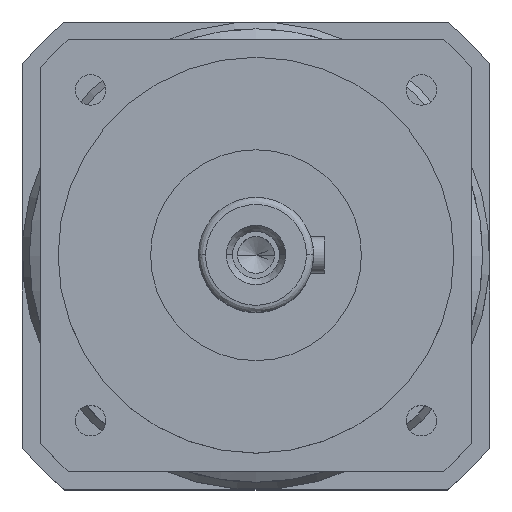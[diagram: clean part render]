
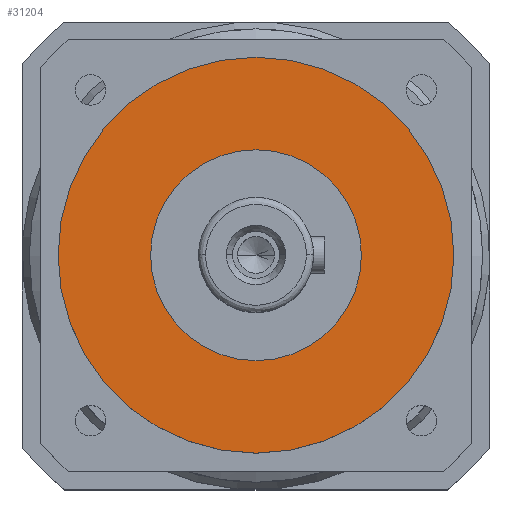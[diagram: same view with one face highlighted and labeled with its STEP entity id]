
A CAD part, top view. The second image highlights one B-rep face of the part: STEP entity #31204.
In plain terms, the highlighted planar face has unit normal (0, 0, 1).
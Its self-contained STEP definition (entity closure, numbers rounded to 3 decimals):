
#555 = EDGE_CURVE ( 'NONE', #27554, #13588, #12805, .T. ) ;
#1188 = DIRECTION ( 'NONE',  ( -1., 0., 0. ) ) ;
#3856 = CARTESIAN_POINT ( 'NONE',  ( -55., 0., 0. ) ) ;
#4158 = EDGE_LOOP ( 'NONE', ( #20468, #32859 ) ) ;
#4182 = CIRCLE ( 'NONE', #35358, 55. ) ;
#4303 = AXIS2_PLACEMENT_3D ( 'NONE', #38072, #18399, #41420 ) ;
#6310 = EDGE_CURVE ( 'NONE', #36546, #17198, #15286, .T. ) ;
#8863 = FACE_BOUND ( 'NONE', #30505, .T. ) ;
#9305 = EDGE_CURVE ( 'NONE', #13588, #27554, #4182, .T. ) ;
#11523 = AXIS2_PLACEMENT_3D ( 'NONE', #40679, #20998, #1188 ) ;
#12805 = CIRCLE ( 'NONE', #28833, 55. ) ;
#12848 = AXIS2_PLACEMENT_3D ( 'NONE', #39233, #13071, #36091 ) ;
#13071 = DIRECTION ( 'NONE',  ( 0., 0., -1. ) ) ;
#13588 = VERTEX_POINT ( 'NONE', #25625 ) ;
#15286 = CIRCLE ( 'NONE', #4303, 29.3 ) ;
#16062 = ORIENTED_EDGE ( 'NONE', *, *, #6310, .F. ) ;
#17198 = VERTEX_POINT ( 'NONE', #23348 ) ;
#17211 = ORIENTED_EDGE ( 'NONE', *, *, #26100, .F. ) ;
#17370 = CARTESIAN_POINT ( 'NONE',  ( 29.3, 0., 0. ) ) ;
#18399 = DIRECTION ( 'NONE',  ( 0., 0., 1. ) ) ;
#18777 = CARTESIAN_POINT ( 'NONE',  ( 0., 0., 0. ) ) ;
#19263 = CARTESIAN_POINT ( 'NONE',  ( 0., 0., 0. ) ) ;
#20468 = ORIENTED_EDGE ( 'NONE', *, *, #9305, .F. ) ;
#20998 = DIRECTION ( 'NONE',  ( 0., 0., 1. ) ) ;
#21284 = DIRECTION ( 'NONE',  ( 1., 0., 0. ) ) ;
#21429 = DIRECTION ( 'NONE',  ( 0., 0., -1. ) ) ;
#22081 = DIRECTION ( 'NONE',  ( 1., 0., 0. ) ) ;
#23348 = CARTESIAN_POINT ( 'NONE',  ( -29.3, 0., 0. ) ) ;
#25625 = CARTESIAN_POINT ( 'NONE',  ( 55., 0., 0. ) ) ;
#26100 = EDGE_CURVE ( 'NONE', #17198, #36546, #33304, .T. ) ;
#27554 = VERTEX_POINT ( 'NONE', #3856 ) ;
#28833 = AXIS2_PLACEMENT_3D ( 'NONE', #19263, #21429, #21284 ) ;
#30505 = EDGE_LOOP ( 'NONE', ( #17211, #16062 ) ) ;
#31204 = ADVANCED_FACE ( 'NONE', ( #8863, #34138 ), #35952, .F. ) ;
#32859 = ORIENTED_EDGE ( 'NONE', *, *, #555, .F. ) ;
#33304 = CIRCLE ( 'NONE', #11523, 29.3 ) ;
#34138 = FACE_OUTER_BOUND ( 'NONE', #4158, .T. ) ;
#35358 = AXIS2_PLACEMENT_3D ( 'NONE', #18777, #41777, #22081 ) ;
#35952 = PLANE ( 'NONE',  #12848 ) ;
#36091 = DIRECTION ( 'NONE',  ( -1., 0., 0. ) ) ;
#36546 = VERTEX_POINT ( 'NONE', #17370 ) ;
#38072 = CARTESIAN_POINT ( 'NONE',  ( 0., 0., 0. ) ) ;
#39233 = CARTESIAN_POINT ( 'NONE',  ( 0., 0., 0. ) ) ;
#40679 = CARTESIAN_POINT ( 'NONE',  ( 0., 0., 0. ) ) ;
#41420 = DIRECTION ( 'NONE',  ( -1., 0., 0. ) ) ;
#41777 = DIRECTION ( 'NONE',  ( 0., 0., -1. ) ) ;
